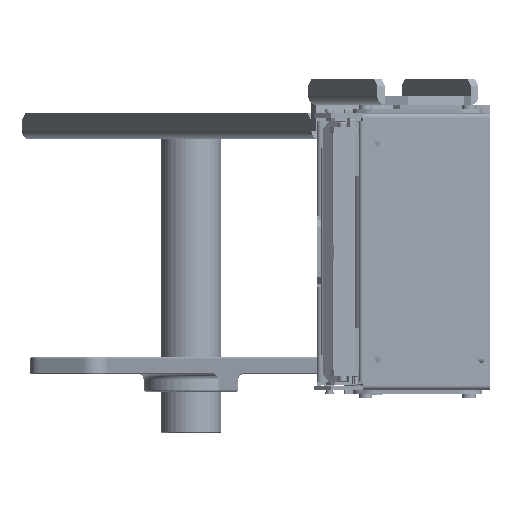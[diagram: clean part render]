
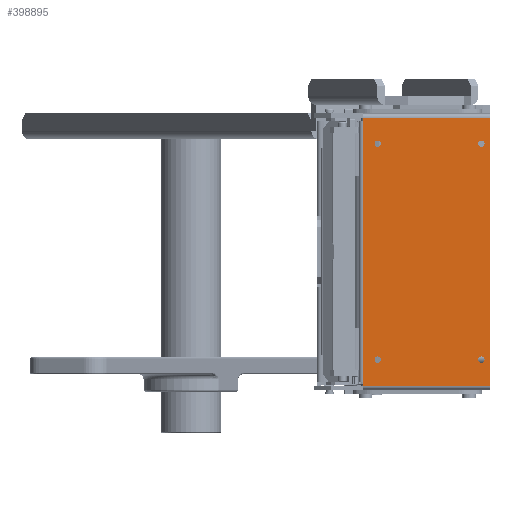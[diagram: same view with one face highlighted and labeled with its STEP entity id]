
A CAD part, left-side view. The second image highlights one B-rep face of the part: STEP entity #398895.
In plain terms, the highlighted planar face has unit normal (-1, 0, 0).
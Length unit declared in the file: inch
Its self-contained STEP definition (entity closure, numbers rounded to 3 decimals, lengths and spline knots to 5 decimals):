
#1489 = EDGE_CURVE ( 'NONE', #200996, #106924, #279457, .T. ) ;
#2406 = CARTESIAN_POINT ( 'NONE',  ( 0.07392, 1.87024, 0. ) ) ;
#5022 = VERTEX_POINT ( 'NONE', #191836 ) ;
#6392 = DIRECTION ( 'NONE',  ( 0., 0., 1. ) ) ;
#9007 = LINE ( 'NONE', #87349, #341932 ) ;
#10172 = VERTEX_POINT ( 'NONE', #216220 ) ;
#10497 = CARTESIAN_POINT ( 'NONE',  ( 0.07392, 1.87024, 0. ) ) ;
#19015 = DIRECTION ( 'NONE',  ( 0., 0., 1. ) ) ;
#20707 = EDGE_CURVE ( 'NONE', #5022, #292460, #75256, .T. ) ;
#22479 = EDGE_CURVE ( 'NONE', #76332, #218345, #153626, .T. ) ;
#23850 = VECTOR ( 'NONE', #361045, 39.37008 ) ;
#26636 = ORIENTED_EDGE ( 'NONE', *, *, #331764, .F. ) ;
#28945 = CIRCLE ( 'NONE', #396395, 0.0465 ) ;
#30818 = CARTESIAN_POINT ( 'NONE',  ( 0.07392, 0.15524, -3.5625 ) ) ;
#37269 = CIRCLE ( 'NONE', #277865, 0.0465 ) ;
#38975 = CARTESIAN_POINT ( 'NONE',  ( 0.07392, 1.65524, -3.516 ) ) ;
#47115 = CARTESIAN_POINT ( 'NONE',  ( 0.07392, 0.15524, -0.484 ) ) ;
#48032 = CARTESIAN_POINT ( 'NONE',  ( 0.07392, 0.15524, -3.609 ) ) ;
#48454 = VERTEX_POINT ( 'NONE', #59821 ) ;
#50544 = DIRECTION ( 'NONE',  ( 0., 0., 1. ) ) ;
#53684 = FACE_BOUND ( 'NONE', #202881, .T. ) ;
#58730 = CARTESIAN_POINT ( 'NONE',  ( 0.07392, 1.65524, -3.609 ) ) ;
#59094 = CARTESIAN_POINT ( 'NONE',  ( 0.07392, 0.15524, -0.4375 ) ) ;
#59301 = CARTESIAN_POINT ( 'NONE',  ( 0.07392, 0.15524, -0.391 ) ) ;
#59821 = CARTESIAN_POINT ( 'NONE',  ( 0.07392, 1.87024, -0.063 ) ) ;
#59854 = VERTEX_POINT ( 'NONE', #114734 ) ;
#60383 = EDGE_CURVE ( 'NONE', #80755, #122081, #126820, .T. ) ;
#64133 = AXIS2_PLACEMENT_3D ( 'NONE', #355430, #173450, #50544 ) ;
#67066 = DIRECTION ( 'NONE',  ( -1., 0., 0. ) ) ;
#69231 = PLANE ( 'NONE',  #395036 ) ;
#70583 = EDGE_CURVE ( 'NONE', #122081, #200996, #81734, .T. ) ;
#75256 = CIRCLE ( 'NONE', #229620, 0.0465 ) ;
#76332 = VERTEX_POINT ( 'NONE', #59301 ) ;
#76976 = CARTESIAN_POINT ( 'NONE',  ( 0.07392, 1.65524, -0.4375 ) ) ;
#80755 = VERTEX_POINT ( 'NONE', #90142 ) ;
#81462 = VECTOR ( 'NONE', #134449, 39.37008 ) ;
#81734 = LINE ( 'NONE', #95252, #400529 ) ;
#87349 = CARTESIAN_POINT ( 'NONE',  ( 0.07392, 0.03024, -0.063 ) ) ;
#90142 = CARTESIAN_POINT ( 'NONE',  ( 0.07392, 0.03024, -3.937 ) ) ;
#91424 = DIRECTION ( 'NONE',  ( 0., 0., 1. ) ) ;
#95252 = CARTESIAN_POINT ( 'NONE',  ( 0.07392, 1.87024, 0. ) ) ;
#99850 = ORIENTED_EDGE ( 'NONE', *, *, #253950, .F. ) ;
#104097 = VERTEX_POINT ( 'NONE', #58730 ) ;
#106924 = VERTEX_POINT ( 'NONE', #323382 ) ;
#107321 = AXIS2_PLACEMENT_3D ( 'NONE', #30818, #341113, #338387 ) ;
#107966 = DIRECTION ( 'NONE',  ( -1., 0., 0. ) ) ;
#113556 = DIRECTION ( 'NONE',  ( 0., 0., 1. ) ) ;
#114734 = CARTESIAN_POINT ( 'NONE',  ( 0.07392, 0.15524, -3.516 ) ) ;
#119647 = VERTEX_POINT ( 'NONE', #48032 ) ;
#120926 = DIRECTION ( 'NONE',  ( 0., 0., 1. ) ) ;
#122081 = VERTEX_POINT ( 'NONE', #368033 ) ;
#123293 = DIRECTION ( 'NONE',  ( -1., 0., 0. ) ) ;
#126820 = LINE ( 'NONE', #247819, #339022 ) ;
#134449 = DIRECTION ( 'NONE',  ( 0., 0., 1. ) ) ;
#135754 = FACE_BOUND ( 'NONE', #255465, .T. ) ;
#136708 = EDGE_CURVE ( 'NONE', #10172, #80755, #212009, .T. ) ;
#142225 = ORIENTED_EDGE ( 'NONE', *, *, #143484, .F. ) ;
#143484 = EDGE_CURVE ( 'NONE', #218345, #76332, #231526, .T. ) ;
#146380 = ORIENTED_EDGE ( 'NONE', *, *, #212502, .F. ) ;
#151077 = EDGE_CURVE ( 'NONE', #48454, #10172, #9007, .T. ) ;
#153626 = CIRCLE ( 'NONE', #290012, 0.0465 ) ;
#154085 = AXIS2_PLACEMENT_3D ( 'NONE', #318414, #164630, #380488 ) ;
#160194 = FACE_OUTER_BOUND ( 'NONE', #228640, .T. ) ;
#164630 = DIRECTION ( 'NONE',  ( -1., 0., 0. ) ) ;
#167722 = ORIENTED_EDGE ( 'NONE', *, *, #22479, .F. ) ;
#173450 = DIRECTION ( 'NONE',  ( -1., 0., 0. ) ) ;
#174551 = FACE_BOUND ( 'NONE', #345870, .T. ) ;
#174937 = ORIENTED_EDGE ( 'NONE', *, *, #20707, .F. ) ;
#180312 = ORIENTED_EDGE ( 'NONE', *, *, #385526, .F. ) ;
#182760 = CARTESIAN_POINT ( 'NONE',  ( 0.07392, 1.65524, -3.5625 ) ) ;
#191836 = CARTESIAN_POINT ( 'NONE',  ( 0.07392, 1.65524, -0.484 ) ) ;
#194592 = CARTESIAN_POINT ( 'NONE',  ( 0.07392, 1.87024, -3.887 ) ) ;
#200092 = CARTESIAN_POINT ( 'NONE',  ( 0.07392, 0.03024, 0. ) ) ;
#200996 = VERTEX_POINT ( 'NONE', #194592 ) ;
#202881 = EDGE_LOOP ( 'NONE', ( #99850, #174937 ) ) ;
#212009 = LINE ( 'NONE', #273360, #23850 ) ;
#212502 = EDGE_CURVE ( 'NONE', #59854, #119647, #255194, .T. ) ;
#216220 = CARTESIAN_POINT ( 'NONE',  ( 0.07392, 0.03024, -0.063 ) ) ;
#218345 = VERTEX_POINT ( 'NONE', #47115 ) ;
#228640 = EDGE_LOOP ( 'NONE', ( #363584, #377875, #392423, #354791, #368005, #252687 ) ) ;
#229620 = AXIS2_PLACEMENT_3D ( 'NONE', #76976, #107966, #19015 ) ;
#231526 = CIRCLE ( 'NONE', #64133, 0.0465 ) ;
#240051 = ORIENTED_EDGE ( 'NONE', *, *, #396290, .F. ) ;
#242637 = DIRECTION ( 'NONE',  ( 0., -1., 0. ) ) ;
#247819 = CARTESIAN_POINT ( 'NONE',  ( 0.07392, 0.03024, -3.937 ) ) ;
#250519 = DIRECTION ( 'NONE',  ( 0., 1., 0. ) ) ;
#252687 = ORIENTED_EDGE ( 'NONE', *, *, #396977, .F. ) ;
#253950 = EDGE_CURVE ( 'NONE', #292460, #5022, #28945, .T. ) ;
#255194 = CIRCLE ( 'NONE', #107321, 0.0465 ) ;
#255465 = EDGE_LOOP ( 'NONE', ( #26636, #180312 ) ) ;
#258818 = DIRECTION ( 'NONE',  ( 0., 0., 1. ) ) ;
#273360 = CARTESIAN_POINT ( 'NONE',  ( 0.07392, 0.03024, 0. ) ) ;
#275099 = DIRECTION ( 'NONE',  ( -1., 0., 0. ) ) ;
#277782 = CARTESIAN_POINT ( 'NONE',  ( 0.07392, 1.65524, -0.391 ) ) ;
#277865 = AXIS2_PLACEMENT_3D ( 'NONE', #182760, #123293, #281261 ) ;
#279457 = LINE ( 'NONE', #2406, #81462 ) ;
#281261 = DIRECTION ( 'NONE',  ( 0., 0., 1. ) ) ;
#290012 = AXIS2_PLACEMENT_3D ( 'NONE', #59094, #275099, #91424 ) ;
#292460 = VERTEX_POINT ( 'NONE', #277782 ) ;
#301131 = DIRECTION ( 'NONE',  ( -1., 0., 0. ) ) ;
#304999 = FACE_BOUND ( 'NONE', #377207, .T. ) ;
#306997 = CIRCLE ( 'NONE', #154085, 0.0465 ) ;
#318414 = CARTESIAN_POINT ( 'NONE',  ( 0.07392, 1.65524, -3.5625 ) ) ;
#318820 = DIRECTION ( 'NONE',  ( -1., 0., 0. ) ) ;
#319300 = CARTESIAN_POINT ( 'NONE',  ( 0.07392, 1.65524, -0.4375 ) ) ;
#320183 = DIRECTION ( 'NONE',  ( 0., 0., 1. ) ) ;
#323382 = CARTESIAN_POINT ( 'NONE',  ( 0.07392, 1.87024, -0.113 ) ) ;
#326867 = CIRCLE ( 'NONE', #381338, 0.0465 ) ;
#331764 = EDGE_CURVE ( 'NONE', #375364, #104097, #306997, .T. ) ;
#338387 = DIRECTION ( 'NONE',  ( 0., 0., 1. ) ) ;
#339022 = VECTOR ( 'NONE', #250519, 39.37008 ) ;
#341113 = DIRECTION ( 'NONE',  ( -1., 0., 0. ) ) ;
#341932 = VECTOR ( 'NONE', #242637, 39.37008 ) ;
#345870 = EDGE_LOOP ( 'NONE', ( #167722, #142225 ) ) ;
#349174 = VECTOR ( 'NONE', #258818, 39.37008 ) ;
#354791 = ORIENTED_EDGE ( 'NONE', *, *, #136708, .F. ) ;
#355430 = CARTESIAN_POINT ( 'NONE',  ( 0.07392, 0.15524, -0.4375 ) ) ;
#361045 = DIRECTION ( 'NONE',  ( 0., 0., -1. ) ) ;
#363584 = ORIENTED_EDGE ( 'NONE', *, *, #1489, .F. ) ;
#368005 = ORIENTED_EDGE ( 'NONE', *, *, #151077, .F. ) ;
#368033 = CARTESIAN_POINT ( 'NONE',  ( 0.07392, 1.87024, -3.937 ) ) ;
#375364 = VERTEX_POINT ( 'NONE', #38975 ) ;
#377207 = EDGE_LOOP ( 'NONE', ( #146380, #240051 ) ) ;
#377875 = ORIENTED_EDGE ( 'NONE', *, *, #70583, .F. ) ;
#380488 = DIRECTION ( 'NONE',  ( 0., 0., 1. ) ) ;
#381338 = AXIS2_PLACEMENT_3D ( 'NONE', #392928, #301131, #113556 ) ;
#385526 = EDGE_CURVE ( 'NONE', #104097, #375364, #37269, .T. ) ;
#392423 = ORIENTED_EDGE ( 'NONE', *, *, #60383, .F. ) ;
#392928 = CARTESIAN_POINT ( 'NONE',  ( 0.07392, 0.15524, -3.5625 ) ) ;
#395036 = AXIS2_PLACEMENT_3D ( 'NONE', #200092, #318820, #320183 ) ;
#396290 = EDGE_CURVE ( 'NONE', #119647, #59854, #326867, .T. ) ;
#396395 = AXIS2_PLACEMENT_3D ( 'NONE', #319300, #67066, #6392 ) ;
#396977 = EDGE_CURVE ( 'NONE', #106924, #48454, #397666, .T. ) ;
#397666 = LINE ( 'NONE', #10497, #349174 ) ;
#398895 = ADVANCED_FACE ( 'NONE', ( #135754, #174551, #304999, #53684, #160194 ), #69231, .T. ) ;
#400529 = VECTOR ( 'NONE', #120926, 39.37008 ) ;
